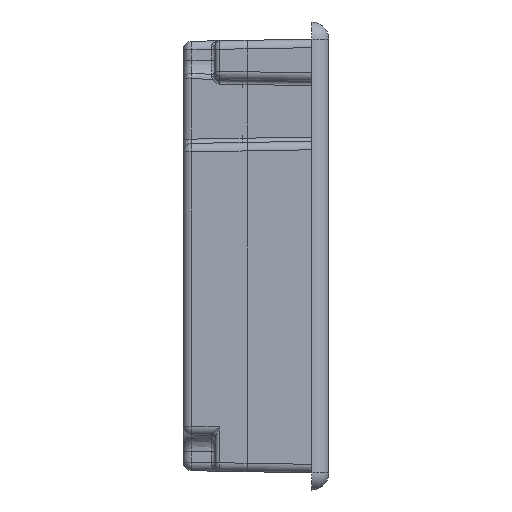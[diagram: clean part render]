
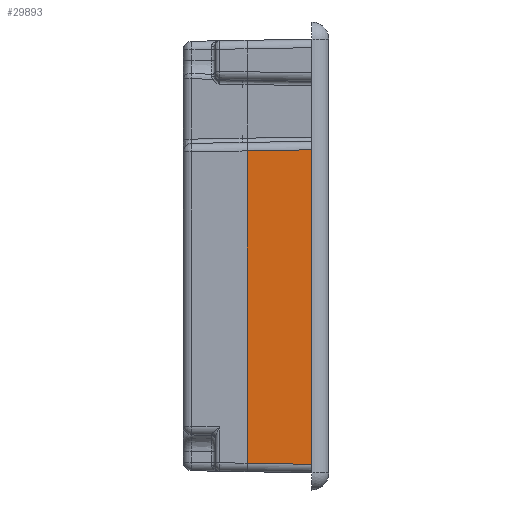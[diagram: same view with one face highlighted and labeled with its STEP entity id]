
A CAD part, left-side view. The second image highlights one B-rep face of the part: STEP entity #29893.
In plain terms, the highlighted planar face has unit normal (-1, 0.018, 0).
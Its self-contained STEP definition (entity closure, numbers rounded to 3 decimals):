
#827 = PLANE ( 'NONE',  #15418 ) ;
#991 = DIRECTION ( 'NONE',  ( -1., 0.017, 0. ) ) ;
#1430 = ORIENTED_EDGE ( 'NONE', *, *, #33835, .T. ) ;
#3394 = DIRECTION ( 'NONE',  ( 0., 0., 1. ) ) ;
#4373 = VECTOR ( 'NONE', #46374, 1000. ) ;
#7448 = VECTOR ( 'NONE', #48286, 1000. ) ;
#14232 = VERTEX_POINT ( 'NONE', #28498 ) ;
#15418 = AXIS2_PLACEMENT_3D ( 'NONE', #23345, #991, #27141 ) ;
#18001 = EDGE_LOOP ( 'NONE', ( #20986, #40082, #23866, #1430 ) ) ;
#18965 = CARTESIAN_POINT ( 'NONE',  ( -95.7, 19.2, 24.7 ) ) ;
#20335 = VERTEX_POINT ( 'NONE', #18965 ) ;
#20888 = VECTOR ( 'NONE', #3394, 1000. ) ;
#20986 = ORIENTED_EDGE ( 'NONE', *, *, #44837, .T. ) ;
#23345 = CARTESIAN_POINT ( 'NONE',  ( -96., 2., -51. ) ) ;
#23866 = ORIENTED_EDGE ( 'NONE', *, *, #33177, .T. ) ;
#24201 = LINE ( 'NONE', #38799, #4373 ) ;
#27141 = DIRECTION ( 'NONE',  ( -0.017, -1., 0. ) ) ;
#27959 = LINE ( 'NONE', #33095, #46728 ) ;
#28498 = CARTESIAN_POINT ( 'NONE',  ( -95.7, 19.2, -48.7 ) ) ;
#29893 = ADVANCED_FACE ( 'NONE', ( #48499 ), #827, .T. ) ;
#33095 = CARTESIAN_POINT ( 'NONE',  ( -96.001, 1.965, -49.001 ) ) ;
#33177 = EDGE_CURVE ( 'NONE', #45989, #20335, #37255, .T. ) ;
#33283 = VERTEX_POINT ( 'NONE', #45260 ) ;
#33835 = EDGE_CURVE ( 'NONE', #20335, #14232, #24201, .T. ) ;
#36915 = DIRECTION ( 'NONE',  ( -0.017, -1., -0.017 ) ) ;
#37255 = LINE ( 'NONE', #44588, #7448 ) ;
#38799 = CARTESIAN_POINT ( 'NONE',  ( -95.7, 19.2, -51. ) ) ;
#40082 = ORIENTED_EDGE ( 'NONE', *, *, #47506, .T. ) ;
#40861 = LINE ( 'NONE', #48155, #20888 ) ;
#44588 = CARTESIAN_POINT ( 'NONE',  ( -95.977, 3.326, 24.977 ) ) ;
#44837 = EDGE_CURVE ( 'NONE', #14232, #33283, #27959, .T. ) ;
#45260 = CARTESIAN_POINT ( 'NONE',  ( -95.965, 4., -48.965 ) ) ;
#45989 = VERTEX_POINT ( 'NONE', #47697 ) ;
#46374 = DIRECTION ( 'NONE',  ( 0., 0., -1. ) ) ;
#46728 = VECTOR ( 'NONE', #36915, 1000. ) ;
#47506 = EDGE_CURVE ( 'NONE', #33283, #45989, #40861, .T. ) ;
#47697 = CARTESIAN_POINT ( 'NONE',  ( -95.965, 4., 24.965 ) ) ;
#48155 = CARTESIAN_POINT ( 'NONE',  ( -95.965, 4., -51. ) ) ;
#48286 = DIRECTION ( 'NONE',  ( 0.017, 1., -0.017 ) ) ;
#48499 = FACE_OUTER_BOUND ( 'NONE', #18001, .T. ) ;
